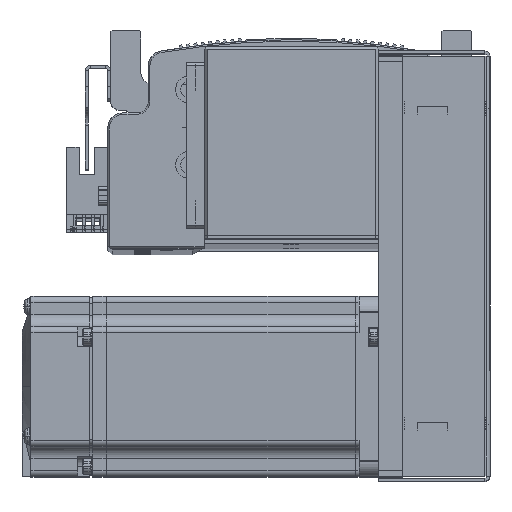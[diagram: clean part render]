
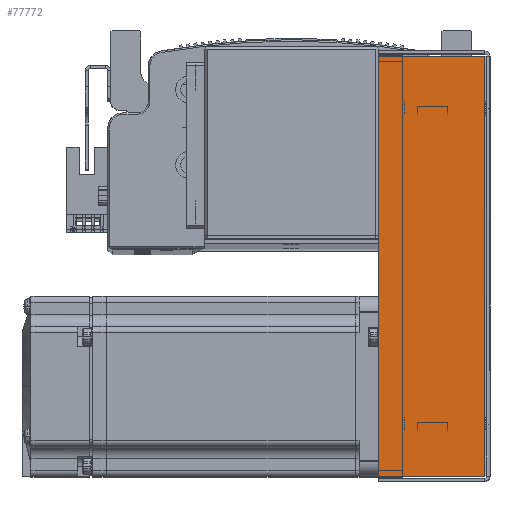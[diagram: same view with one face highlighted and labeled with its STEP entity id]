
A CAD part, top view. The second image highlights one B-rep face of the part: STEP entity #77772.
In plain terms, the highlighted planar face has unit normal (0, 0, 1).
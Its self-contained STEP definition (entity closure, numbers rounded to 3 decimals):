
#4816 = VERTEX_POINT ( 'NONE', #63877 ) ;
#4819 = VERTEX_POINT ( 'NONE', #63914 ) ;
#4823 = VERTEX_POINT ( 'NONE', #63931 ) ;
#4829 = VERTEX_POINT ( 'NONE', #63924 ) ;
#13067 = CARTESIAN_POINT ( 'NONE',  ( 0., 0., 33.5 ) ) ;
#13080 = PLANE ( 'NONE',  #47758 ) ;
#13127 = DIRECTION ( 'NONE',  ( 0., 0., -1. ) ) ;
#13143 = DIRECTION ( 'NONE',  ( -1., 0., 0. ) ) ;
#13410 = EDGE_CURVE ( 'NONE', #4816, #4819, #22867, .T. ) ;
#13431 = EDGE_CURVE ( 'NONE', #4823, #4819, #22972, .T. ) ;
#13447 = EDGE_CURVE ( 'NONE', #4829, #4816, #23067, .T. ) ;
#13458 = EDGE_CURVE ( 'NONE', #4829, #4823, #23143, .T. ) ;
#22867 = LINE ( 'NONE', #26357, #22918 ) ;
#22918 = VECTOR ( 'NONE', #26437, 1000. ) ;
#22972 = LINE ( 'NONE', #79718, #22981 ) ;
#22981 = VECTOR ( 'NONE', #79713, 1000. ) ;
#23067 = LINE ( 'NONE', #79704, #23095 ) ;
#23095 = VECTOR ( 'NONE', #79730, 1000. ) ;
#23101 = VECTOR ( 'NONE', #79738, 1000. ) ;
#23143 = LINE ( 'NONE', #79694, #23101 ) ;
#26357 = CARTESIAN_POINT ( 'NONE',  ( -69.793, 0., 33.5 ) ) ;
#26437 = DIRECTION ( 'NONE',  ( 0., 1., 0. ) ) ;
#36508 = FACE_OUTER_BOUND ( 'NONE', #42444, .T. ) ;
#42444 = EDGE_LOOP ( 'NONE', ( #51988, #52040, #52057, #52038 ) ) ;
#47758 = AXIS2_PLACEMENT_3D ( 'NONE', #13067, #13127, #13143 ) ;
#51988 = ORIENTED_EDGE ( 'NONE', *, *, #13447, .F. ) ;
#52038 = ORIENTED_EDGE ( 'NONE', *, *, #13410, .F. ) ;
#52040 = ORIENTED_EDGE ( 'NONE', *, *, #13458, .T. ) ;
#52057 = ORIENTED_EDGE ( 'NONE', *, *, #13431, .T. ) ;
#63877 = CARTESIAN_POINT ( 'NONE',  ( -69.793, 0.737, 33.5 ) ) ;
#63914 = CARTESIAN_POINT ( 'NONE',  ( -69.793, 36., 33.5 ) ) ;
#63924 = CARTESIAN_POINT ( 'NONE',  ( 69.793, 0.737, 33.5 ) ) ;
#63931 = CARTESIAN_POINT ( 'NONE',  ( 69.793, 36., 33.5 ) ) ;
#77772 = ADVANCED_FACE ( 'NONE', ( #36508 ), #13080, .F. ) ;
#79694 = CARTESIAN_POINT ( 'NONE',  ( 69.793, 0., 33.5 ) ) ;
#79704 = CARTESIAN_POINT ( 'NONE',  ( -71.5, 0.737, 33.5 ) ) ;
#79713 = DIRECTION ( 'NONE',  ( -1., 0., 0. ) ) ;
#79718 = CARTESIAN_POINT ( 'NONE',  ( 0., 36., 33.5 ) ) ;
#79730 = DIRECTION ( 'NONE',  ( -1., 0., 0. ) ) ;
#79738 = DIRECTION ( 'NONE',  ( 0., 1., 0. ) ) ;
